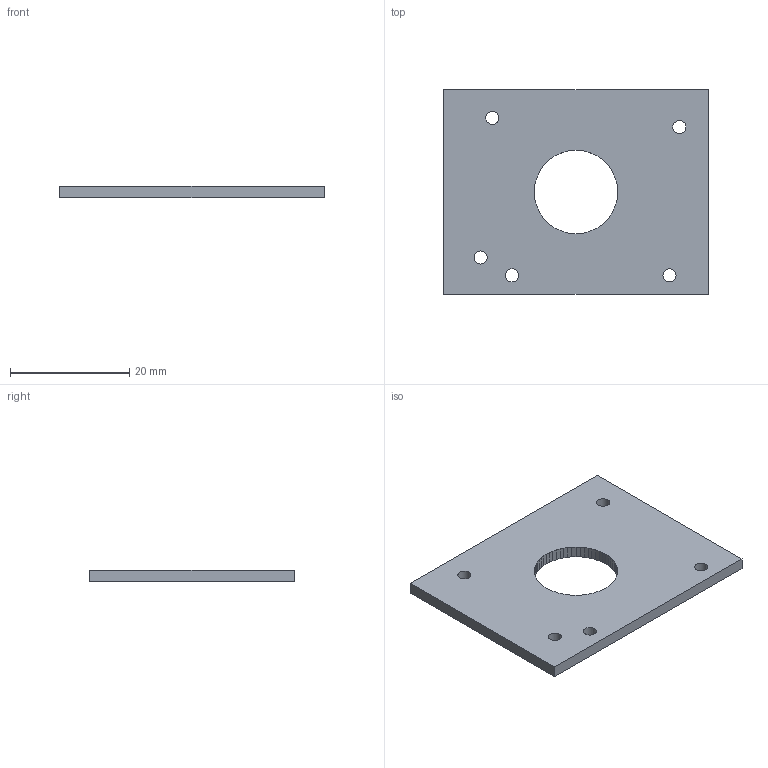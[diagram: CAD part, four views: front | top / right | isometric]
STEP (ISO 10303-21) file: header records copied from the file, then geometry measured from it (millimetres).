
FILE_DESCRIPTION(('Open CASCADE Model'),'2;1');
FILE_NAME('Open CASCADE Shape Model','1979-01-01T00:00:00',('Author'),( 'Open CASCADE'),'Open CASCADE STEP processor 8.0','Open CASCADE 8.0' ,'Unknown');
FILE_SCHEMA(('AUTOMOTIVE_DESIGN { 1 0 10303 214 1 1 1 1 }'));
Length unit declared in the file: millimetre
Products named in the file (1): Open CASCADE STEP translator 8.0 48
Bounding box: 44.4 x 34.4 x 2 mm (x, y, z)
Volume: 2709.3 mm3; surface area: 3181.6 mm2
Topology: 1 solids, 1 shells, 75 faces, 219 edges, 146 vertices
Faces by surface type: plane 70, cylinder 5
Full cylindrical faces by diameter (mm): 2.2 x5
Entity records: 5324 total; most frequent: CARTESIAN_POINT 879, DIRECTION 819, LINE 637, VECTOR 637, ORIENTED_EDGE 438, PCURVE 438, DEFINITIONAL_REPRESENTATION 438, EDGE_CURVE 219
